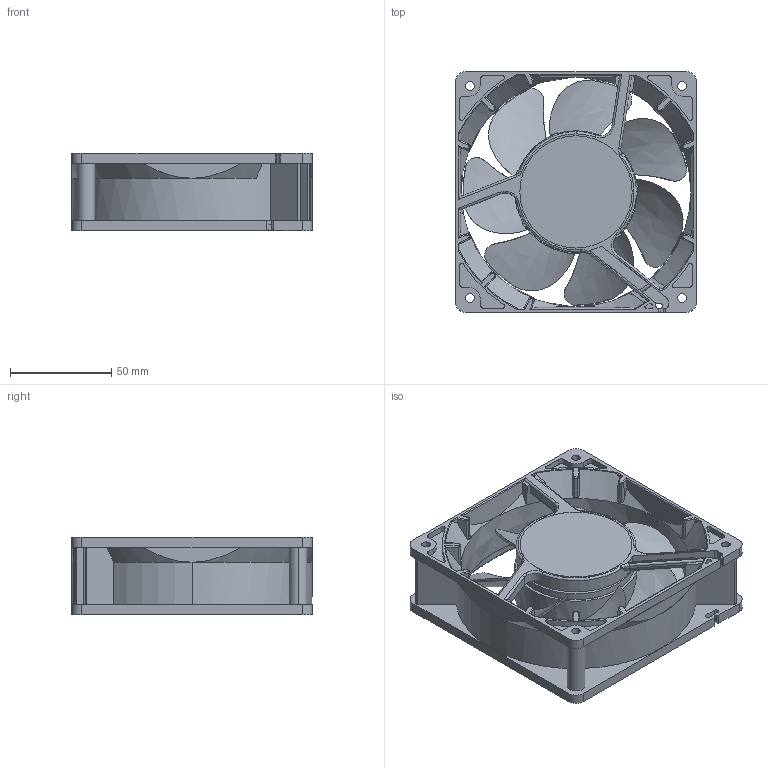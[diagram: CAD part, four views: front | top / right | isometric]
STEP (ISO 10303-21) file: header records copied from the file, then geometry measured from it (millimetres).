
FILE_DESCRIPTION (( 'STEP AP203' ), '1' );
FILE_NAME ('12038G_RIBBED.STEP', '2017-03-24T02:33:12', ( '' ), ( '' ), 'SwSTEP 2.0', 'SolidWorks 2017', '' );
FILE_SCHEMA (( 'CONFIG_CONTROL_DESIGN' ));
Length unit declared in the file: millimetre
Products named in the file (1): 12038G_RIBBED
Bounding box: 119 x 119 x 38.2 mm (x, y, z)
Volume: 174741.8 mm3; surface area: 78965.1 mm2
Topology: 1 solids, 1 shells, 505 faces, 1399 edges, 904 vertices
Faces by surface type: cylinder 194, plane 144, bspline 127, cone 40
Entity records: 27141 total; most frequent: CARTESIAN_POINT 15321, ORIENTED_EDGE 2792, DIRECTION 2059, EDGE_CURVE 1396, VERTEX_POINT 904, AXIS2_PLACEMENT_3D 782, EDGE_LOOP 538, FACE_OUTER_BOUND 505
